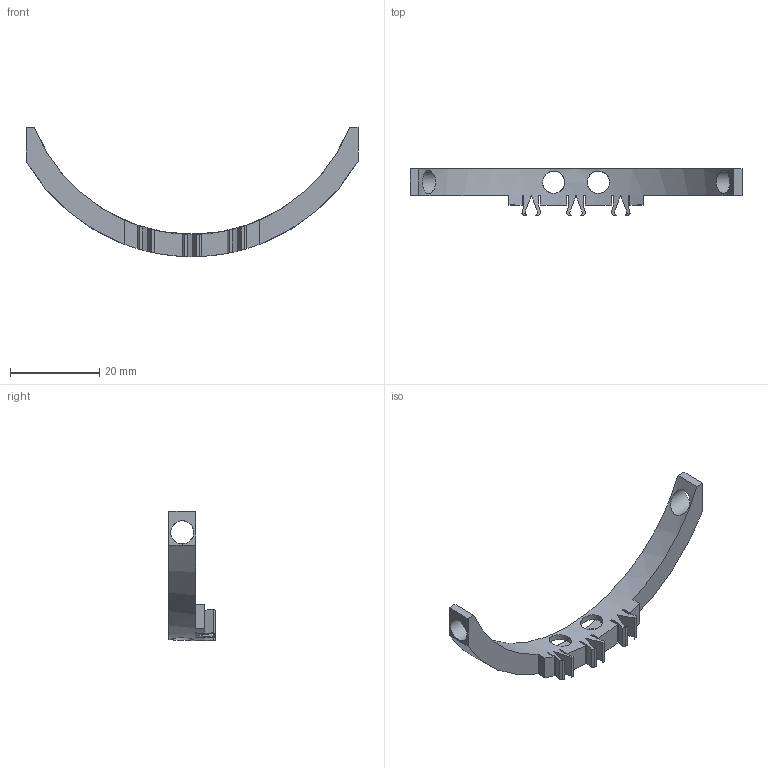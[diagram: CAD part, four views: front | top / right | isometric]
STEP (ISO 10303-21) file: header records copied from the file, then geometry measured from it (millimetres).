
FILE_DESCRIPTION(/* description */ (''),/* implementation_level */ '2;1');
FILE_NAME(/* name */ 'C:/Users/priba/Downloads/mrm-barrHolder.step',/* time_stamp */ '2022-04-05T08:45:51+02:00',/* author */ (''),/* organization */ (''),/* preprocessor_version */ 'ST-DEVELOPER v18.1',/* originating_system */ 'Autodesk Translation Framework v10.13.0.1454',/* authorisation */ '');
FILE_SCHEMA (('AUTOMOTIVE_DESIGN { 1 0 10303 214 3 1 1 }'));
Length unit declared in the file: millimetre
Products named in the file (1): mrm-barrHolder
Bounding box: 74.3 x 10.41 x 28.92 mm (x, y, z)
Volume: 1887.6 mm3; surface area: 3415.9 mm2
Topology: 1 solids, 1 shells, 103 faces, 302 edges, 202 vertices
Faces by surface type: plane 85, cylinder 18
Full cylindrical faces by diameter (mm): 5 x2, 5.2 x2
Entity records: 3856 total; most frequent: CARTESIAN_POINT 998, ORIENTED_EDGE 604, DIRECTION 604, EDGE_CURVE 302, AXIS2_PLACEMENT_3D 224, VERTEX_POINT 202, LINE 156, VECTOR 156
